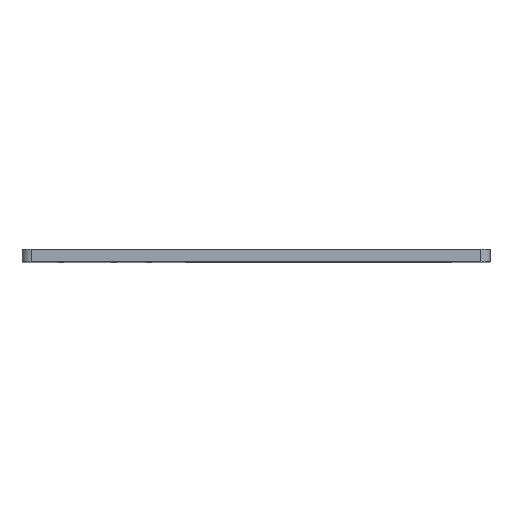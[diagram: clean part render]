
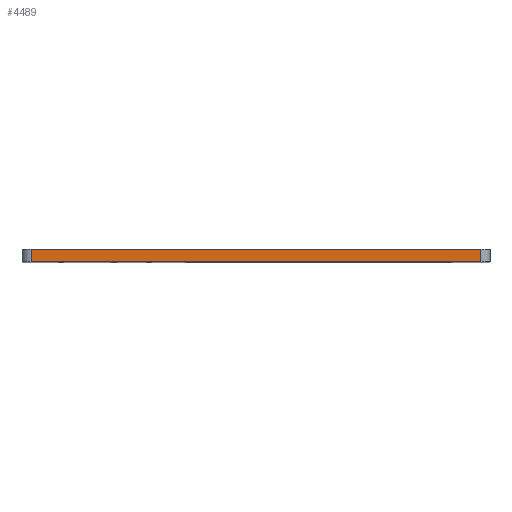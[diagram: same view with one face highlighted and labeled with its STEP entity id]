
A CAD part, top view. The second image highlights one B-rep face of the part: STEP entity #4489.
In plain terms, the highlighted planar face has unit normal (0, 0, 1).
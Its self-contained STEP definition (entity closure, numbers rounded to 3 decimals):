
#54 = VECTOR ( 'NONE', #1786, 1000. ) ;
#264 = VERTEX_POINT ( 'NONE', #1327 ) ;
#282 = EDGE_CURVE ( 'NONE', #264, #1309, #1782, .T. ) ;
#391 = DIRECTION ( 'NONE',  ( 1., 0., 0. ) ) ;
#532 = FACE_OUTER_BOUND ( 'NONE', #3458, .T. ) ;
#669 = LINE ( 'NONE', #4287, #2715 ) ;
#854 = PLANE ( 'NONE',  #1987 ) ;
#1090 = LINE ( 'NONE', #1432, #54 ) ;
#1309 = VERTEX_POINT ( 'NONE', #1962 ) ;
#1319 = CARTESIAN_POINT ( 'NONE',  ( -250., 13., 297.5 ) ) ;
#1327 = CARTESIAN_POINT ( 'NONE',  ( -240., 0., 297.5 ) ) ;
#1432 = CARTESIAN_POINT ( 'NONE',  ( 240., 13., 297.5 ) ) ;
#1769 = CARTESIAN_POINT ( 'NONE',  ( 240., 13., 297.5 ) ) ;
#1782 = LINE ( 'NONE', #4119, #4662 ) ;
#1786 = DIRECTION ( 'NONE',  ( 0., 1., 0. ) ) ;
#1962 = CARTESIAN_POINT ( 'NONE',  ( 240., 0., 297.5 ) ) ;
#1987 = AXIS2_PLACEMENT_3D ( 'NONE', #1319, #2483, #3515 ) ;
#2062 = DIRECTION ( 'NONE',  ( 0., -1., 0. ) ) ;
#2364 = VECTOR ( 'NONE', #2062, 1000. ) ;
#2369 = EDGE_CURVE ( 'NONE', #4036, #264, #2481, .T. ) ;
#2443 = ORIENTED_EDGE ( 'NONE', *, *, #282, .T. ) ;
#2481 = LINE ( 'NONE', #4735, #2364 ) ;
#2483 = DIRECTION ( 'NONE',  ( 0., 0., -1. ) ) ;
#2597 = CARTESIAN_POINT ( 'NONE',  ( -240., 13., 297.5 ) ) ;
#2692 = EDGE_CURVE ( 'NONE', #1309, #3950, #1090, .T. ) ;
#2715 = VECTOR ( 'NONE', #4311, 1000. ) ;
#3079 = ORIENTED_EDGE ( 'NONE', *, *, #4378, .F. ) ;
#3131 = ORIENTED_EDGE ( 'NONE', *, *, #2692, .T. ) ;
#3458 = EDGE_LOOP ( 'NONE', ( #3079, #4214, #2443, #3131 ) ) ;
#3515 = DIRECTION ( 'NONE',  ( -1., 0., 0. ) ) ;
#3950 = VERTEX_POINT ( 'NONE', #1769 ) ;
#4036 = VERTEX_POINT ( 'NONE', #2597 ) ;
#4119 = CARTESIAN_POINT ( 'NONE',  ( -250., 0., 297.5 ) ) ;
#4214 = ORIENTED_EDGE ( 'NONE', *, *, #2369, .T. ) ;
#4287 = CARTESIAN_POINT ( 'NONE',  ( -250., 13., 297.5 ) ) ;
#4311 = DIRECTION ( 'NONE',  ( 1., 0., 0. ) ) ;
#4378 = EDGE_CURVE ( 'NONE', #4036, #3950, #669, .T. ) ;
#4489 = ADVANCED_FACE ( 'NONE', ( #532 ), #854, .F. ) ;
#4662 = VECTOR ( 'NONE', #391, 1000. ) ;
#4735 = CARTESIAN_POINT ( 'NONE',  ( -240., 13., 297.5 ) ) ;
